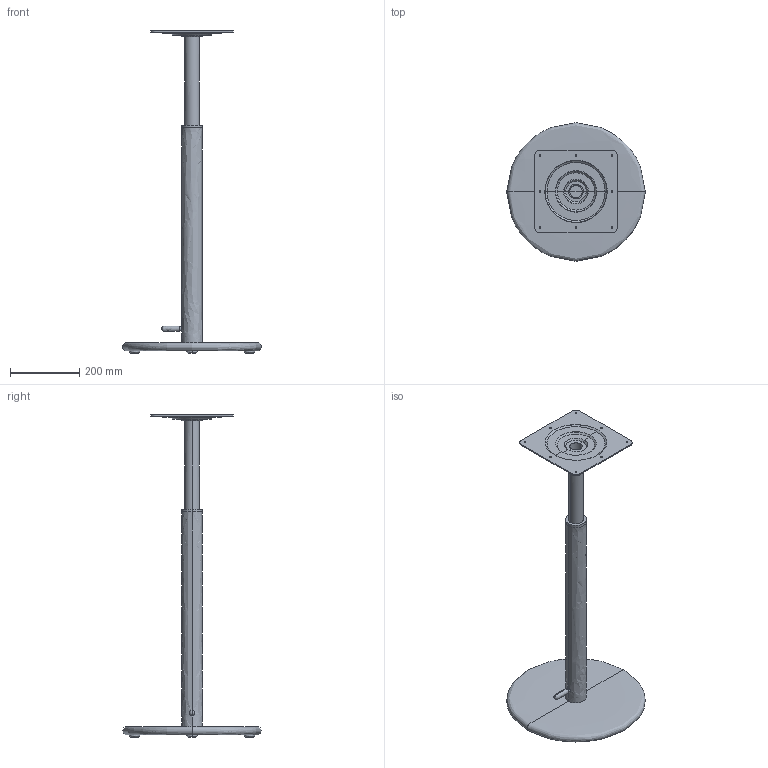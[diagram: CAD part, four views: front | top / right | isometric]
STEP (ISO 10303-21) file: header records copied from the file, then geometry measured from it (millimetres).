
FILE_DESCRIPTION(/* description */ (''),/* implementation_level */ '2;1');
FILE_NAME(/* name */ 'kinoshita_abord_tl007',/* time_stamp */ '2024-10-01T15:23:52+09:00',/* author */ (''),/* organization */ (''),/* preprocessor_version */ 'ST-DEVELOPER v16.5',/* originating_system */ '',/* authorisation */ '');
FILE_SCHEMA (('AUTOMOTIVE_DESIGN'));
Length unit declared in the file: millimetre
Products named in the file (1): Document
Bounding box: 399.96 x 400 x 930 mm (x, y, z)
Volume: 5628657.5 mm3; surface area: 578594.8 mm2
Topology: 3 solids, 3 shells, 81 faces, 194 edges, 110 vertices
Faces by surface type: bspline 54, plane 27
Entity records: 2741 total; most frequent: CARTESIAN_POINT 1664, ORIENTED_EDGE 364, EDGE_CURVE 182, VERTEX_POINT 110, EDGE_LOOP 102, ADVANCED_FACE 81, FACE_OUTER_BOUND 81, DIRECTION 31
